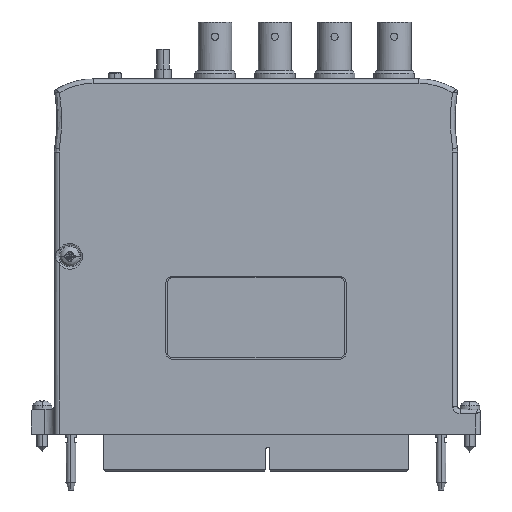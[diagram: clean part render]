
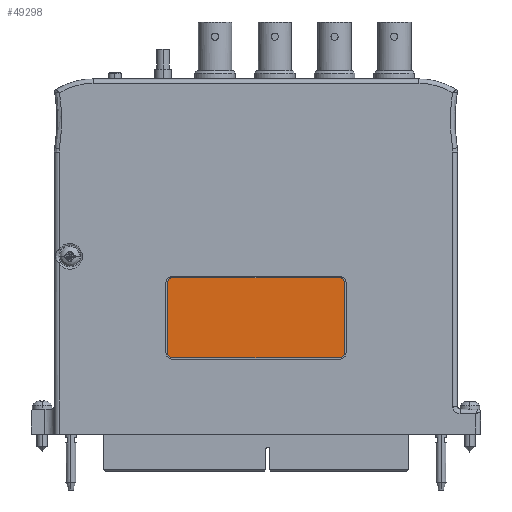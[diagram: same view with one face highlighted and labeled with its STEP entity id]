
A CAD part, left-side view. The second image highlights one B-rep face of the part: STEP entity #49298.
In plain terms, the highlighted planar face has unit normal (-1, 0, 0).
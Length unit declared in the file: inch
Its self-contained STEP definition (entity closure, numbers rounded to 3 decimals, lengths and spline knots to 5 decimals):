
#18380=CARTESIAN_POINT('',(-0.394,0.938,1.699));
#18381=DIRECTION('',(-1.,0.,0.));
#18382=DIRECTION('',(0.,0.,1.));
#18383=AXIS2_PLACEMENT_3D('',#18380,#18381,#18382);
#18385=DIRECTION('',(0.,1.,0.));
#18386=VECTOR('',#18385,1.876);
#18387=CARTESIAN_POINT('',(-0.394,-0.938,1.761));
#18388=LINE('',#18387,#18386);
#18389=CARTESIAN_POINT('',(-0.394,-0.938,1.699));
#18390=DIRECTION('',(-1.,0.,0.));
#18391=DIRECTION('',(0.,-1.,0.));
#18392=AXIS2_PLACEMENT_3D('',#18389,#18390,#18391);
#18394=DIRECTION('',(0.,0.,1.));
#18395=VECTOR('',#18394,0.782);
#18396=CARTESIAN_POINT('',(-0.394,-1.,0.917));
#18397=LINE('',#18396,#18395);
#18398=CARTESIAN_POINT('',(-0.394,-0.938,0.917));
#18399=DIRECTION('',(-1.,0.,0.));
#18400=DIRECTION('',(0.,0.,-1.));
#18401=AXIS2_PLACEMENT_3D('',#18398,#18399,#18400);
#18403=DIRECTION('',(0.,-1.,0.));
#18404=VECTOR('',#18403,1.876);
#18405=CARTESIAN_POINT('',(-0.394,0.938,0.855));
#18406=LINE('',#18405,#18404);
#18407=CARTESIAN_POINT('',(-0.394,0.938,0.917));
#18408=DIRECTION('',(-1.,0.,0.));
#18409=DIRECTION('',(0.,1.,0.));
#18410=AXIS2_PLACEMENT_3D('',#18407,#18408,#18409);
#18412=DIRECTION('',(0.,0.,-1.));
#18413=VECTOR('',#18412,0.782);
#18414=CARTESIAN_POINT('',(-0.394,1.,1.699));
#18415=LINE('',#18414,#18413);
#23913=CARTESIAN_POINT('',(-0.394,0.938,1.761));
#23914=CARTESIAN_POINT('',(-0.394,1.,1.699));
#23915=VERTEX_POINT('',#23913);
#23916=VERTEX_POINT('',#23914);
#23917=CARTESIAN_POINT('',(-0.394,-1.,1.699));
#23918=CARTESIAN_POINT('',(-0.394,-0.938,1.761));
#23919=VERTEX_POINT('',#23917);
#23920=VERTEX_POINT('',#23918);
#23921=CARTESIAN_POINT('',(-0.394,-0.938,0.855));
#23922=CARTESIAN_POINT('',(-0.394,-1.,0.917));
#23923=VERTEX_POINT('',#23921);
#23924=VERTEX_POINT('',#23922);
#23925=CARTESIAN_POINT('',(-0.394,1.,0.917));
#23926=CARTESIAN_POINT('',(-0.394,0.938,0.855));
#23927=VERTEX_POINT('',#23925);
#23928=VERTEX_POINT('',#23926);
#49283=CARTESIAN_POINT('',(-0.394,-1.,1.761));
#49284=DIRECTION('',(-1.,0.,0.));
#49285=DIRECTION('',(0.,1.,0.));
#49286=AXIS2_PLACEMENT_3D('',#49283,#49284,#49285);
#49287=PLANE('',#49286);
#49288=ORIENTED_EDGE('',*,*,#49277,.F.);
#49289=ORIENTED_EDGE('',*,*,#49179,.F.);
#49290=ORIENTED_EDGE('',*,*,#49194,.F.);
#49291=ORIENTED_EDGE('',*,*,#49208,.F.);
#49292=ORIENTED_EDGE('',*,*,#49222,.F.);
#49293=ORIENTED_EDGE('',*,*,#49236,.F.);
#49294=ORIENTED_EDGE('',*,*,#49250,.F.);
#49295=ORIENTED_EDGE('',*,*,#49264,.F.);
#49296=EDGE_LOOP('',(#49288,#49289,#49290,#49291,#49292,#49293,#49294,#49295));
#49297=FACE_OUTER_BOUND('',#49296,.F.);
#49298=ADVANCED_FACE('',(#49297),#49287,.T.);
#18384=CIRCLE('',#18383,0.062);
#18393=CIRCLE('',#18392,0.062);
#18402=CIRCLE('',#18401,0.062);
#18411=CIRCLE('',#18410,0.062);
#49179=EDGE_CURVE('',#23920,#23915,#18388,.T.);
#49194=EDGE_CURVE('',#23919,#23920,#18393,.T.);
#49208=EDGE_CURVE('',#23924,#23919,#18397,.T.);
#49222=EDGE_CURVE('',#23923,#23924,#18402,.T.);
#49236=EDGE_CURVE('',#23928,#23923,#18406,.T.);
#49250=EDGE_CURVE('',#23927,#23928,#18411,.T.);
#49264=EDGE_CURVE('',#23916,#23927,#18415,.T.);
#49277=EDGE_CURVE('',#23915,#23916,#18384,.T.);
